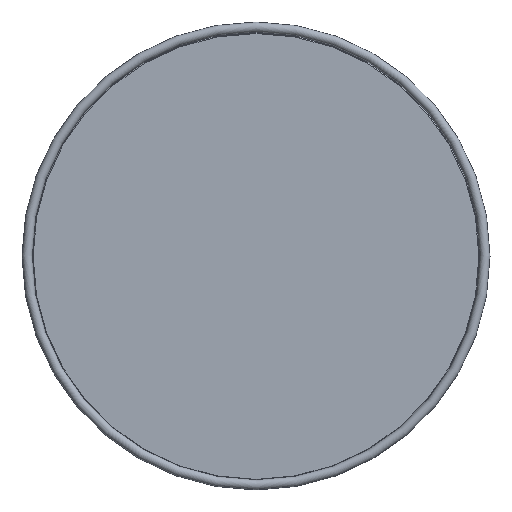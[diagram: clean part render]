
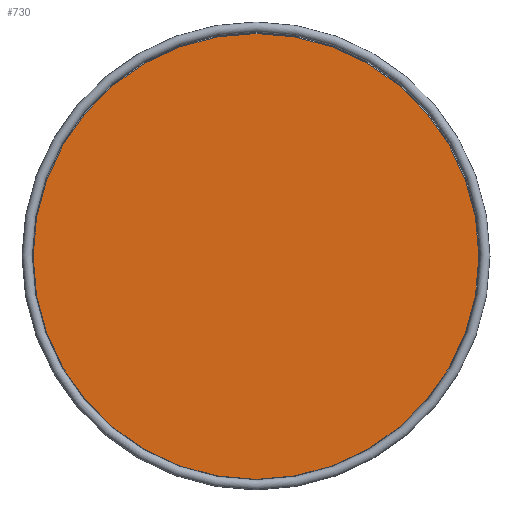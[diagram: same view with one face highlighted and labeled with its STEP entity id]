
A CAD part, top view. The second image highlights one B-rep face of the part: STEP entity #730.
In plain terms, the highlighted planar face has unit normal (0, 0, 1).
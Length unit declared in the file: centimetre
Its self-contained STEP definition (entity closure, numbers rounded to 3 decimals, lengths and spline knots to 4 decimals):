
#168=FACE_OUTER_BOUND('',#224,.T.);
#224=EDGE_LOOP('',(#502));
#311=CIRCLE('',#801,22.15);
#355=VERTEX_POINT('',#1146);
#417=EDGE_CURVE('',#355,#355,#311,.T.);
#502=ORIENTED_EDGE('',*,*,#417,.F.);
#646=PLANE('',#802);
#730=ADVANCED_FACE('',(#168),#646,.T.);
#801=AXIS2_PLACEMENT_3D('',#1147,#933,#934);
#802=AXIS2_PLACEMENT_3D('',#1148,#935,#936);
#933=DIRECTION('center_axis',(0.,0.,-1.));
#934=DIRECTION('ref_axis',(-1.,0.,0.));
#935=DIRECTION('center_axis',(0.,0.,1.));
#936=DIRECTION('ref_axis',(1.,0.,0.));
#1146=CARTESIAN_POINT('',(22.15,-5.8,2.271));
#1147=CARTESIAN_POINT('Origin',(0.,-5.8,2.271));
#1148=CARTESIAN_POINT('Origin',(0.,-5.8,2.271));
